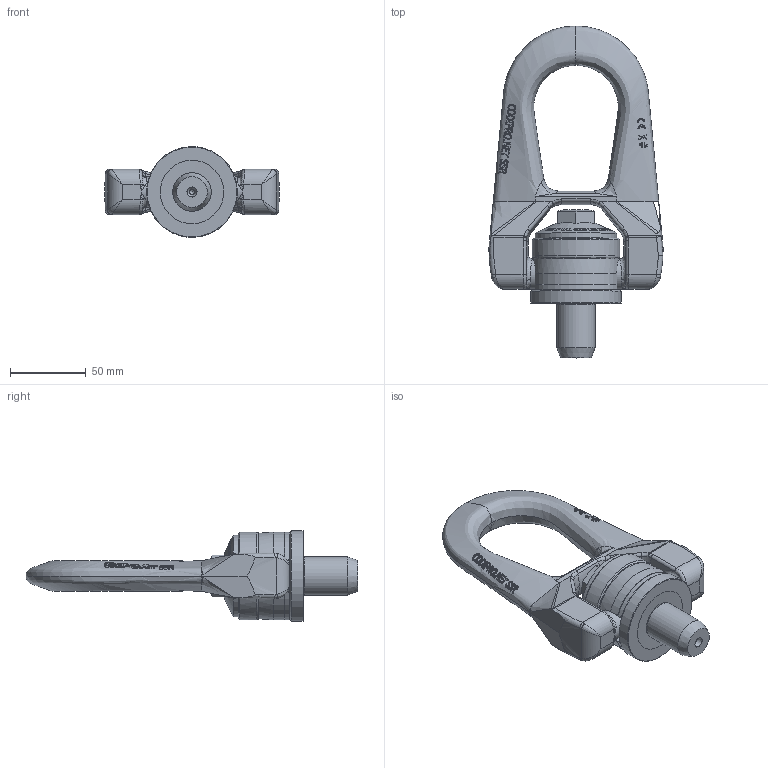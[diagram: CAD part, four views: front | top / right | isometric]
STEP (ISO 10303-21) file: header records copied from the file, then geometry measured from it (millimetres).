
FILE_DESCRIPTION(/* description */ (''),/* implementation_level */ '2;1');
FILE_NAME(/* name */ 'W:\CODIPRO\DOCUMENTS\Plans A NE PAS DIFFUSER !!!\Fichiers STEP\Gamme 2018\Produits NON GRADUP\SS DSR\SS DSR U100.stp',/* time_stamp */ '2017-09-26T13:22:35+02:00',/* author */ ('rklenes'),/* organization */ (''),/* preprocessor_version */ 'ST-DEVELOPER v16.5',/* originating_system */ 'Autodesk Inventor 2017',/* authorisation */ '');
FILE_SCHEMA (('AUTOMOTIVE_DESIGN { 1 0 10303 214 3 1 1 }'));
Products named in the file (5): SS DSR U100; DRM_AF3B; SSB_B3B; DRA_U1X79; DRE_D3U1A
Assembly tree (4 placements, depth 2):
  SS DSR U100
    DRM_AF3B
    SSB_B3B
    DRA_U1X79
    DRE_D3U1A
Bounding box: 115 x 219.25 x 59.88 mm (x, y, z)
Volume: 329811.4 mm3; surface area: 73947.8 mm2
Topology: 4 solids, 4 shells, 887 faces, 2352 edges, 1520 vertices
Faces by surface type: plane 388, bspline 356, cylinder 70, cone 57, torus 15, sphere 1
Full cylindrical faces by diameter (mm): 3.15 x1, 20 x2, 25.4 x3, 25.44 x1, 33.6 x2, 34 x2, 46 x1, 54 x1, 58 x1, 60 x1
Entity records: 49450 total; most frequent: CARTESIAN_POINT 30084, ORIENTED_EDGE 4592, DIRECTION 2976, EDGE_CURVE 2296, VERTEX_POINT 1510, AXIS2_PLACEMENT_3D 1063, EDGE_LOOP 984, FACE_OUTER_BOUND 886
